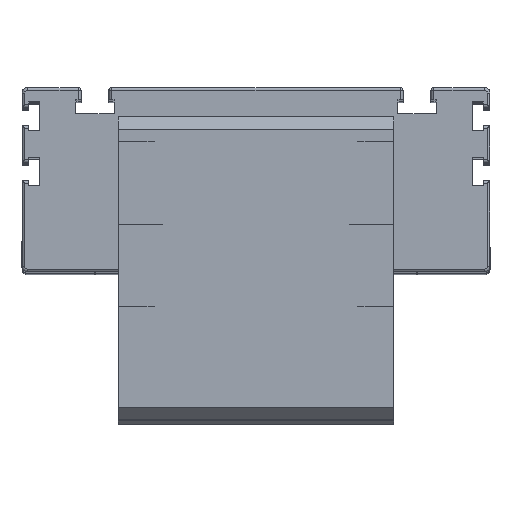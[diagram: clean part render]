
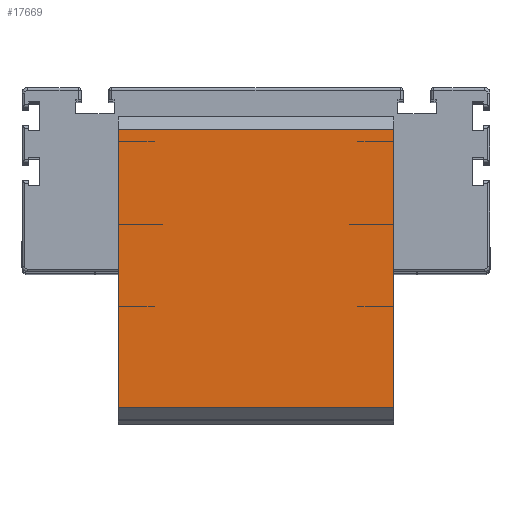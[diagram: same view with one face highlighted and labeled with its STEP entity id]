
A CAD part, top view. The second image highlights one B-rep face of the part: STEP entity #17669.
In plain terms, the highlighted planar face has unit normal (0, 0, 1).
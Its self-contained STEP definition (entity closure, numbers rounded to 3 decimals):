
#1062 = DIRECTION ( 'NONE',  ( -1., 0., 0. ) ) ;
#2151 = ORIENTED_EDGE ( 'NONE', *, *, #17296, .F. ) ;
#3457 = EDGE_CURVE ( 'NONE', #9557, #20307, #14811, .T. ) ;
#3507 = VECTOR ( 'NONE', #5766, 1000. ) ;
#4287 = CARTESIAN_POINT ( 'NONE',  ( 0., 105.5, 45. ) ) ;
#4922 = LINE ( 'NONE', #19942, #5099 ) ;
#5099 = VECTOR ( 'NONE', #11349, 1000. ) ;
#5166 = VECTOR ( 'NONE', #1062, 1000. ) ;
#5187 = AXIS2_PLACEMENT_3D ( 'NONE', #6827, #18357, #20210 ) ;
#5206 = VERTEX_POINT ( 'NONE', #8761 ) ;
#5766 = DIRECTION ( 'NONE',  ( 0., -1., 0. ) ) ;
#5871 = ORIENTED_EDGE ( 'NONE', *, *, #3457, .T. ) ;
#6576 = CARTESIAN_POINT ( 'NONE',  ( 100., 105.5, 45. ) ) ;
#6827 = CARTESIAN_POINT ( 'NONE',  ( 100., 0., 45. ) ) ;
#8262 = ORIENTED_EDGE ( 'NONE', *, *, #19519, .F. ) ;
#8761 = CARTESIAN_POINT ( 'NONE',  ( 100., 4.5, 45. ) ) ;
#9231 = EDGE_LOOP ( 'NONE', ( #5871, #2151, #8262, #12673 ) ) ;
#9557 = VERTEX_POINT ( 'NONE', #4287 ) ;
#10413 = PLANE ( 'NONE',  #5187 ) ;
#10809 = LINE ( 'NONE', #12333, #3507 ) ;
#11349 = DIRECTION ( 'NONE',  ( -1., 0., 0. ) ) ;
#12333 = CARTESIAN_POINT ( 'NONE',  ( 100., 0., 45. ) ) ;
#12673 = ORIENTED_EDGE ( 'NONE', *, *, #13570, .T. ) ;
#13270 = FACE_OUTER_BOUND ( 'NONE', #9231, .T. ) ;
#13410 = DIRECTION ( 'NONE',  ( 0., -1., 0. ) ) ;
#13570 = EDGE_CURVE ( 'NONE', #14296, #9557, #4922, .T. ) ;
#14296 = VERTEX_POINT ( 'NONE', #6576 ) ;
#14811 = LINE ( 'NONE', #21411, #18111 ) ;
#16351 = CARTESIAN_POINT ( 'NONE',  ( 0., 4.5, 45. ) ) ;
#17296 = EDGE_CURVE ( 'NONE', #5206, #20307, #19155, .T. ) ;
#17669 = ADVANCED_FACE ( 'NONE', ( #13270 ), #10413, .F. ) ;
#18111 = VECTOR ( 'NONE', #13410, 1000. ) ;
#18357 = DIRECTION ( 'NONE',  ( 0., 0., -1. ) ) ;
#19155 = LINE ( 'NONE', #20538, #5166 ) ;
#19519 = EDGE_CURVE ( 'NONE', #14296, #5206, #10809, .T. ) ;
#19942 = CARTESIAN_POINT ( 'NONE',  ( 100., 105.5, 45. ) ) ;
#20210 = DIRECTION ( 'NONE',  ( 0., 1., 0. ) ) ;
#20307 = VERTEX_POINT ( 'NONE', #16351 ) ;
#20538 = CARTESIAN_POINT ( 'NONE',  ( 100., 4.5, 45. ) ) ;
#21411 = CARTESIAN_POINT ( 'NONE',  ( 0., 0., 45. ) ) ;
